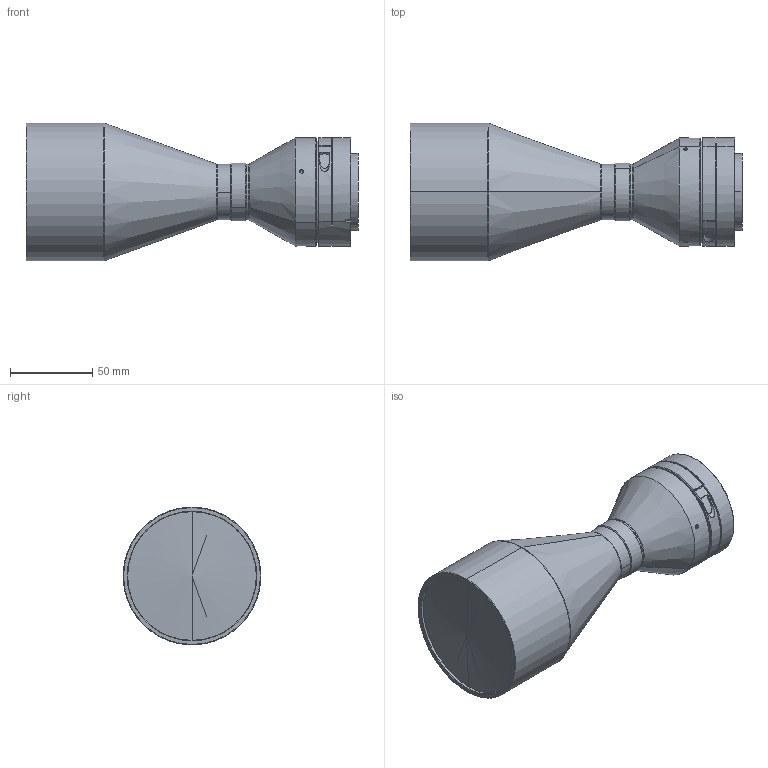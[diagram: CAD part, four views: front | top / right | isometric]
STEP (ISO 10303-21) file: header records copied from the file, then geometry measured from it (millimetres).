
FILE_DESCRIPTION (( 'STEP AP203' ), '1' );
FILE_NAME ('DTCM430-64H-AL.STEP', '2019-07-16T05:41:30', ( '' ), ( '' ), 'SwSTEP 2.0', 'SolidWorks 2017', '' );
FILE_SCHEMA (( 'CONFIG_CONTROL_DESIGN' ));
Length unit declared in the file: millimetre
Products named in the file (1): DTCM430-64H-AL
Bounding box: 202.35 x 84 x 84 mm (x, y, z)
Volume: 655452.2 mm3; surface area: 51538.4 mm2
Topology: 1 solids, 2 shells, 84 faces, 193 edges, 118 vertices
Faces by surface type: cylinder 36, cone 22, plane 20, bspline 6
Entity records: 2803 total; most frequent: CARTESIAN_POINT 845, DIRECTION 408, ORIENTED_EDGE 382, EDGE_CURVE 191, AXIS2_PLACEMENT_3D 165, VERTEX_POINT 118, EDGE_LOOP 93, CIRCLE 86
